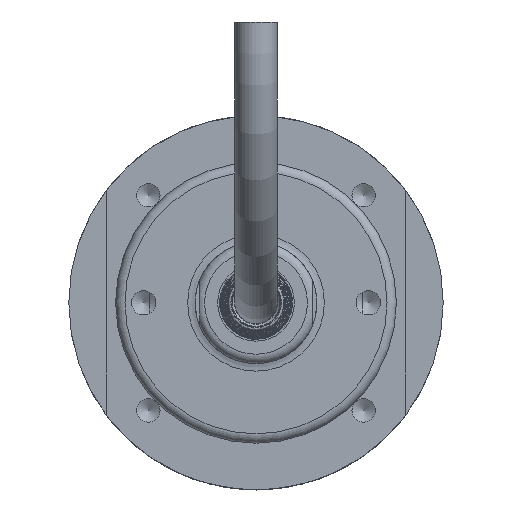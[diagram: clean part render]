
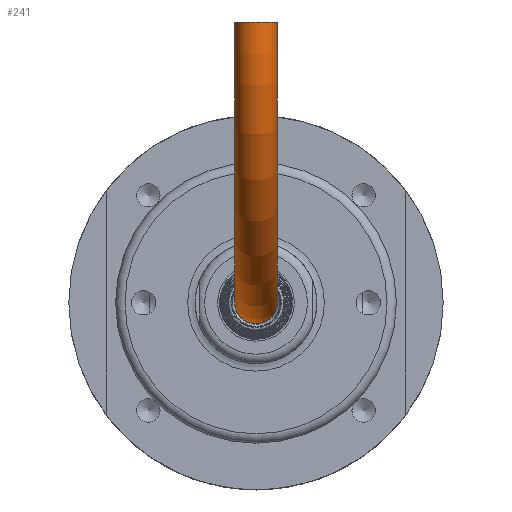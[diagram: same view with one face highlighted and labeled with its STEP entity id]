
A CAD part, front view. The second image highlights one B-rep face of the part: STEP entity #241.
In plain terms, the highlighted toroidal (fillet/blend) face has major radius 30 mm and minor radius 2.25 mm.
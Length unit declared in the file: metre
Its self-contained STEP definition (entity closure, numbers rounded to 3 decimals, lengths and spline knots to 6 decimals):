
#241 = ADVANCED_FACE( '', ( #491, #492 ), #493, .T. );
#491 = FACE_OUTER_BOUND( '', #5055, .T. );
#492 = FACE_OUTER_BOUND( '', #5056, .T. );
#493 = TOROIDAL_SURFACE( '', #5057, 0.03, 0.00225 );
#5055 = EDGE_LOOP( '', ( #11690 ) );
#5056 = EDGE_LOOP( '', ( #11691 ) );
#5057 = AXIS2_PLACEMENT_3D( '', #11692, #11693, #11694 );
#11690 = ORIENTED_EDGE( '', *, *, #12129, .T. );
#11691 = ORIENTED_EDGE( '', *, *, #12044, .F. );
#11692 = CARTESIAN_POINT( '', ( 0., -0.043, 0.03 ) );
#11693 = DIRECTION( '', ( -1., 0., 0. ) );
#11694 = DIRECTION( '', ( 0., 1., 0. ) );
#12044 = EDGE_CURVE( '', #12335, #12335, #12336, .T. );
#12129 = EDGE_CURVE( '', #12486, #12486, #12487, .T. );
#12335 = VERTEX_POINT( '', #12835 );
#12336 = CIRCLE( '', #12836, 0.00225 );
#12486 = VERTEX_POINT( '', #14050 );
#12487 = CIRCLE( '', #14051, 0.00225 );
#12835 = CARTESIAN_POINT( '', ( 0., -0.07075, 0.03 ) );
#12836 = AXIS2_PLACEMENT_3D( '', #17435, #17436, #17437 );
#14050 = CARTESIAN_POINT( '', ( 0.00225, -0.043, 0. ) );
#14051 = AXIS2_PLACEMENT_3D( '', #17551, #17552, #17553 );
#17435 = CARTESIAN_POINT( '', ( 0., -0.073, 0.03 ) );
#17436 = DIRECTION( '', ( 0., 0., 1. ) );
#17437 = DIRECTION( '', ( 0., 1., 0. ) );
#17551 = CARTESIAN_POINT( '', ( 0., -0.043, 0. ) );
#17552 = DIRECTION( '', ( 0., -1., 0. ) );
#17553 = DIRECTION( '', ( 1., 0., 0. ) );
